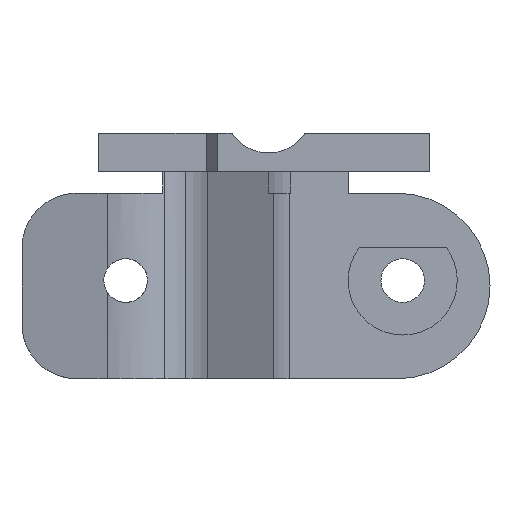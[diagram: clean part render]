
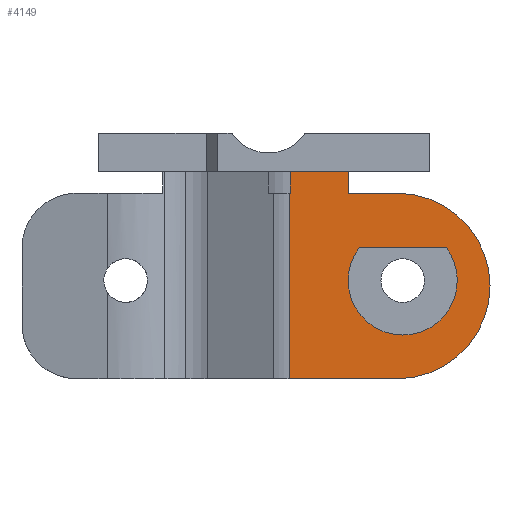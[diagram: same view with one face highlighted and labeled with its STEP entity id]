
A CAD part, left-side view. The second image highlights one B-rep face of the part: STEP entity #4149.
In plain terms, the highlighted planar face has unit normal (-1, 0, 0).
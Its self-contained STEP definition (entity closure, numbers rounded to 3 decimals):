
#849 = DIRECTION ( 'NONE',  ( 0., 1., 0. ) ) ;
#850 = VECTOR ( 'NONE', #849, 1000. ) ;
#851 = CARTESIAN_POINT ( 'NONE',  ( 148.2, 96.4, -6.3 ) ) ;
#852 = LINE ( 'NONE', #851, #850 ) ;
#893 = CARTESIAN_POINT ( 'NONE',  ( 148.2, 108.4, -6.3 ) ) ;
#1017 = CARTESIAN_POINT ( 'NONE',  ( 148.2, 109.4, -1.3 ) ) ;
#1020 = DIRECTION ( 'NONE',  ( 0., -1., 0. ) ) ;
#1021 = VECTOR ( 'NONE', #1020, 1000. ) ;
#1023 = CARTESIAN_POINT ( 'NONE',  ( 148.2, 96.4, -1.3 ) ) ;
#1024 = LINE ( 'NONE', #1023, #1021 ) ;
#1312 = CARTESIAN_POINT ( 'NONE',  ( 148.2, 114.715, 0.7 ) ) ;
#1313 = LINE ( 'NONE', #1312, #1357 ) ;
#1340 = DIRECTION ( 'NONE',  ( 0., -1., 0. ) ) ;
#1341 = VECTOR ( 'NONE', #1340, 1000. ) ;
#1343 = CARTESIAN_POINT ( 'NONE',  ( 148.2, 96.4, -1.3 ) ) ;
#1344 = LINE ( 'NONE', #1343, #1341 ) ;
#1346 = AXIS2_PLACEMENT_3D ( 'NONE', #1387, #1386, #1385 ) ;
#1347 = FACE_OUTER_BOUND ( 'NONE', #4143, .T. ) ;
#1350 = FACE_BOUND ( 'NONE', #4155, .T. ) ;
#1356 = DIRECTION ( 'NONE',  ( 0., 0., 1. ) ) ;
#1357 = VECTOR ( 'NONE', #1356, 1000. ) ;
#1358 = CARTESIAN_POINT ( 'NONE',  ( 148.2, 114.715, -1.3 ) ) ;
#1363 = PLANE ( 'NONE',  #1346 ) ;
#1373 = CARTESIAN_POINT ( 'NONE',  ( 148.2, 114.715, 0.7 ) ) ;
#1385 = DIRECTION ( 'NONE',  ( 0., 1., 0. ) ) ;
#1386 = DIRECTION ( 'NONE',  ( 1., 0., 0. ) ) ;
#1387 = CARTESIAN_POINT ( 'NONE',  ( 148.2, 96.4, -18.3 ) ) ;
#1425 = DIRECTION ( 'NONE',  ( 0., 1., 0. ) ) ;
#1426 = VECTOR ( 'NONE', #1425, 1000. ) ;
#1431 = CARTESIAN_POINT ( 'NONE',  ( 148.2, 114.816, -1.3 ) ) ;
#1436 = DIRECTION ( 'NONE',  ( 0., 0., -1. ) ) ;
#1437 = VECTOR ( 'NONE', #1436, 1000. ) ;
#1439 = DIRECTION ( 'NONE',  ( 0., 1., 0. ) ) ;
#1440 = DIRECTION ( 'NONE',  ( -1., 0., 0. ) ) ;
#1441 = CARTESIAN_POINT ( 'NONE',  ( 148.2, 104.4, -9.3 ) ) ;
#1442 = AXIS2_PLACEMENT_3D ( 'NONE', #1441, #1440, #1439 ) ;
#1443 = CIRCLE ( 'NONE', #1442, 5. ) ;
#1445 = CARTESIAN_POINT ( 'NONE',  ( 148.2, 109.4, -18.3 ) ) ;
#1446 = LINE ( 'NONE', #1445, #1437 ) ;
#1448 = LINE ( 'NONE', #1450, #1426 ) ;
#1450 = CARTESIAN_POINT ( 'NONE',  ( 148.2, 131.3, 0.7 ) ) ;
#1501 = CARTESIAN_POINT ( 'NONE',  ( 148.2, 109.4, 0.7 ) ) ;
#1530 = CARTESIAN_POINT ( 'NONE',  ( 148.2, 114.816, -18.3 ) ) ;
#1664 = DIRECTION ( 'NONE',  ( 0., 0., 1. ) ) ;
#1665 = VECTOR ( 'NONE', #1664, 1000. ) ;
#1666 = CARTESIAN_POINT ( 'NONE',  ( 148.2, 114.816, -18.3 ) ) ;
#1668 = LINE ( 'NONE', #1666, #1665 ) ;
#1993 = DIRECTION ( 'NONE',  ( 0., 1., 0. ) ) ;
#1994 = VECTOR ( 'NONE', #1993, 1000. ) ;
#2003 = CARTESIAN_POINT ( 'NONE',  ( 148.2, 96.4, -18.3 ) ) ;
#2008 = LINE ( 'NONE', #2003, #1994 ) ;
#3060 = DIRECTION ( 'NONE',  ( 0., 1., 0. ) ) ;
#3061 = DIRECTION ( 'NONE',  ( -1., 0., 0. ) ) ;
#3062 = AXIS2_PLACEMENT_3D ( 'NONE', #3073, #3061, #3060 ) ;
#3065 = CIRCLE ( 'NONE', #3062, 5. ) ;
#3073 = CARTESIAN_POINT ( 'NONE',  ( 148.2, 104.4, -9.3 ) ) ;
#3259 = CARTESIAN_POINT ( 'NONE',  ( 148.2, 104.9, -1.3 ) ) ;
#3533 = CARTESIAN_POINT ( 'NONE',  ( 148.2, 104.9, -9.8 ) ) ;
#3550 = AXIS2_PLACEMENT_3D ( 'NONE', #3533, #3565, #3564 ) ;
#3564 = DIRECTION ( 'NONE',  ( 0., -1., 0. ) ) ;
#3565 = DIRECTION ( 'NONE',  ( 1., 0., 0. ) ) ;
#3572 = CIRCLE ( 'NONE', #3663, 5. ) ;
#3577 = CIRCLE ( 'NONE', #3550, 8.5 ) ;
#3659 = CARTESIAN_POINT ( 'NONE',  ( 148.2, 109.4, -9.3 ) ) ;
#3661 = DIRECTION ( 'NONE',  ( 0., 1., 0. ) ) ;
#3662 = DIRECTION ( 'NONE',  ( -1., 0., 0. ) ) ;
#3663 = AXIS2_PLACEMENT_3D ( 'NONE', #3672, #3662, #3661 ) ;
#3669 = CARTESIAN_POINT ( 'NONE',  ( 148.2, 100.4, -6.3 ) ) ;
#3672 = CARTESIAN_POINT ( 'NONE',  ( 148.2, 104.4, -9.3 ) ) ;
#3960 = EDGE_CURVE ( 'NONE', #5084, #3969, #852, .T. ) ;
#3969 = VERTEX_POINT ( 'NONE', #893 ) ;
#4014 = EDGE_CURVE ( 'NONE', #4025, #5049, #1024, .T. ) ;
#4025 = VERTEX_POINT ( 'NONE', #1017 ) ;
#4102 = ORIENTED_EDGE ( 'NONE', *, *, #4340, .F. ) ;
#4104 = ORIENTED_EDGE ( 'NONE', *, *, #4147, .F. ) ;
#4105 = ORIENTED_EDGE ( 'NONE', *, *, #5126, .F. ) ;
#4109 = ORIENTED_EDGE ( 'NONE', *, *, #5068, .F. ) ;
#4113 = ORIENTED_EDGE ( 'NONE', *, *, #4014, .F. ) ;
#4117 = ORIENTED_EDGE ( 'NONE', *, *, #4241, .F. ) ;
#4125 = ORIENTED_EDGE ( 'NONE', *, *, #4152, .F. ) ;
#4129 = ORIENTED_EDGE ( 'NONE', *, *, #4154, .T. ) ;
#4131 = ORIENTED_EDGE ( 'NONE', *, *, #5086, .F. ) ;
#4132 = ORIENTED_EDGE ( 'NONE', *, *, #4151, .F. ) ;
#4136 = VERTEX_POINT ( 'NONE', #1373 ) ;
#4141 = ORIENTED_EDGE ( 'NONE', *, *, #4902, .F. ) ;
#4143 = EDGE_LOOP ( 'NONE', ( #4125, #4129, #4104, #4146, #4117, #4102, #4105, #4109, #4113 ) ) ;
#4144 = VERTEX_POINT ( 'NONE', #1358 ) ;
#4146 = ORIENTED_EDGE ( 'NONE', *, *, #4148, .F. ) ;
#4147 = EDGE_CURVE ( 'NONE', #4144, #4136, #1313, .T. ) ;
#4148 = EDGE_CURVE ( 'NONE', #4163, #4144, #1344, .T. ) ;
#4149 = ADVANCED_FACE ( 'NONE', ( #1350, #1347 ), #1363, .F. ) ;
#4151 = EDGE_CURVE ( 'NONE', #3969, #5092, #1443, .T. ) ;
#4152 = EDGE_CURVE ( 'NONE', #4162, #4025, #1446, .T. ) ;
#4154 = EDGE_CURVE ( 'NONE', #4162, #4136, #1448, .T. ) ;
#4155 = EDGE_LOOP ( 'NONE', ( #4175, #4131, #4141, #4132 ) ) ;
#4162 = VERTEX_POINT ( 'NONE', #1501 ) ;
#4163 = VERTEX_POINT ( 'NONE', #1431 ) ;
#4175 = ORIENTED_EDGE ( 'NONE', *, *, #3960, .F. ) ;
#4208 = VERTEX_POINT ( 'NONE', #1530 ) ;
#4241 = EDGE_CURVE ( 'NONE', #4208, #4163, #1668, .T. ) ;
#4340 = EDGE_CURVE ( 'NONE', #5147, #4208, #2008, .T. ) ;
#4747 = DIRECTION ( 'NONE',  ( 0., -1., 0. ) ) ;
#4748 = DIRECTION ( 'NONE',  ( 1., 0., 0. ) ) ;
#4749 = CARTESIAN_POINT ( 'NONE',  ( 148.2, 104.9, -9.8 ) ) ;
#4754 = AXIS2_PLACEMENT_3D ( 'NONE', #4749, #4748, #4747 ) ;
#4762 = CIRCLE ( 'NONE', #4754, 8.5 ) ;
#4833 = CARTESIAN_POINT ( 'NONE',  ( 148.2, 96.4, -9.8 ) ) ;
#4834 = CARTESIAN_POINT ( 'NONE',  ( 148.2, 99.4, -9.3 ) ) ;
#4835 = CARTESIAN_POINT ( 'NONE',  ( 148.2, 104.9, -18.3 ) ) ;
#4902 = EDGE_CURVE ( 'NONE', #5092, #5152, #3065, .T. ) ;
#5049 = VERTEX_POINT ( 'NONE', #3259 ) ;
#5068 = EDGE_CURVE ( 'NONE', #5049, #5153, #3577, .T. ) ;
#5084 = VERTEX_POINT ( 'NONE', #3669 ) ;
#5086 = EDGE_CURVE ( 'NONE', #5152, #5084, #3572, .T. ) ;
#5092 = VERTEX_POINT ( 'NONE', #3659 ) ;
#5126 = EDGE_CURVE ( 'NONE', #5153, #5147, #4762, .T. ) ;
#5147 = VERTEX_POINT ( 'NONE', #4835 ) ;
#5152 = VERTEX_POINT ( 'NONE', #4834 ) ;
#5153 = VERTEX_POINT ( 'NONE', #4833 ) ;
